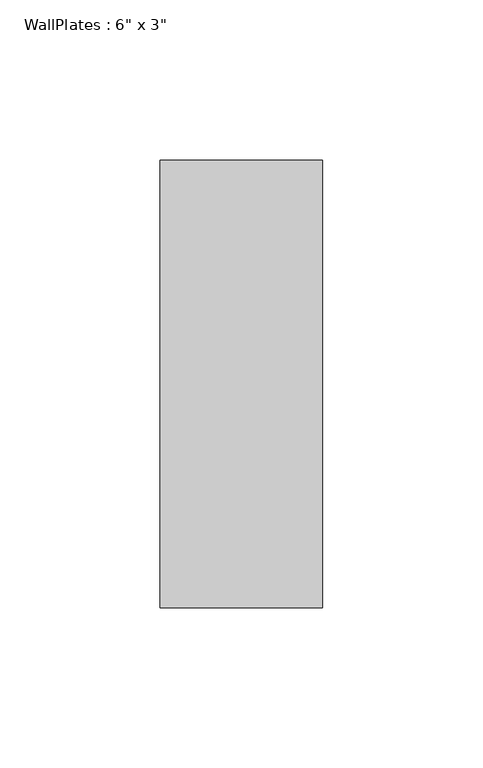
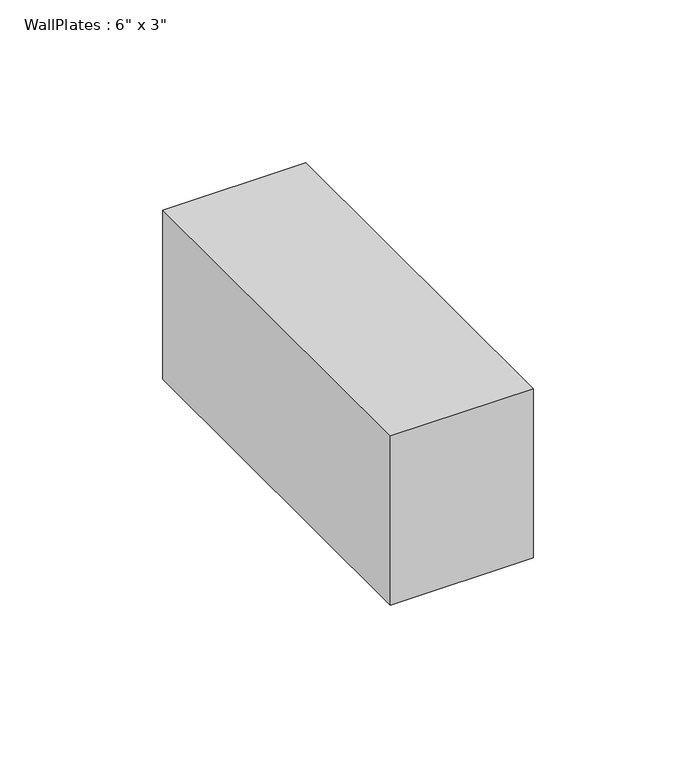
"""IFC4 building model written with IfcOpenShell, lengths in millimetres: beam geometry."""

from ifc_helpers import new_model, si_unit, frame, origin, place, context, project, spatial, polyline, outline, extrude, source, transform, mapped, element, save


def beam_2bd315d8(model_context):
    return source(origin(), model_context, "Body", "SweptSolid", [
        extrude(outline(polyline([(-25.3975, -69.85), (-25.3975, 69.85), (25.3975, 69.85), (25.3975, -69.85), (-25.3975, -69.85)])), frame((0.0, 0.0, -31.75), z_axis=(0.0, 0.0, 1.0), x_axis=(1.0, 0.0, 0.0)), (0.0, 0.0, 1.0), 63.5),
    ])


if __name__ == "__main__":
    model = new_model("IFC4")
    model_context = context("Model", 3, world=origin())
    ifc_project = project(units=[si_unit("LENGTHUNIT", "METRE", prefix="MILLI")], contexts=[model_context])
    site = spatial("IfcSite", under=ifc_project)
    building = spatial("IfcBuilding", under=site)
    placement = place(None, origin())
    beam_shape = beam_2bd315d8(model_context)
    element("IfcBeam", 1, ObjectType="WallPlates : 6\" x 3\"", at=placement, inside=building, context=model_context, shape_type="MappedRepresentation", body=[
        mapped(beam_shape, transform((0.0, 0.0, 0.0), x_axis=(1.0, 0.0, 0.0), y_axis=(0.0, 1.0, 0.0), z_axis=(0.0, 0.0, 1.0))),
    ])
    save(model, "model.ifc")
